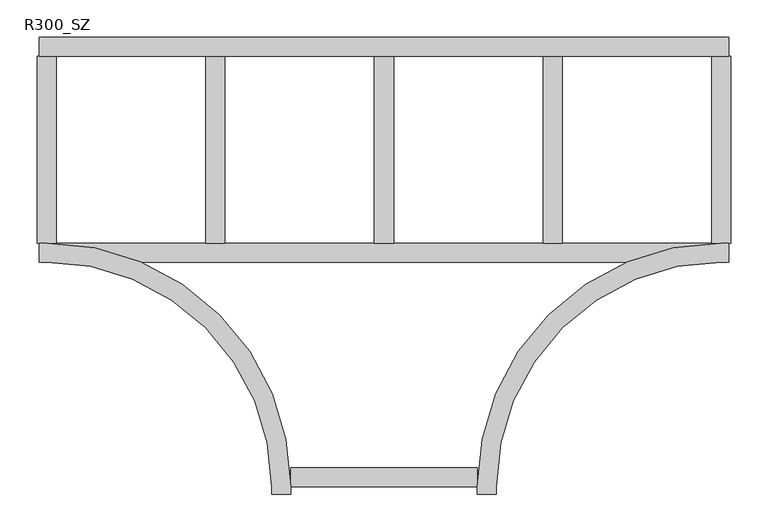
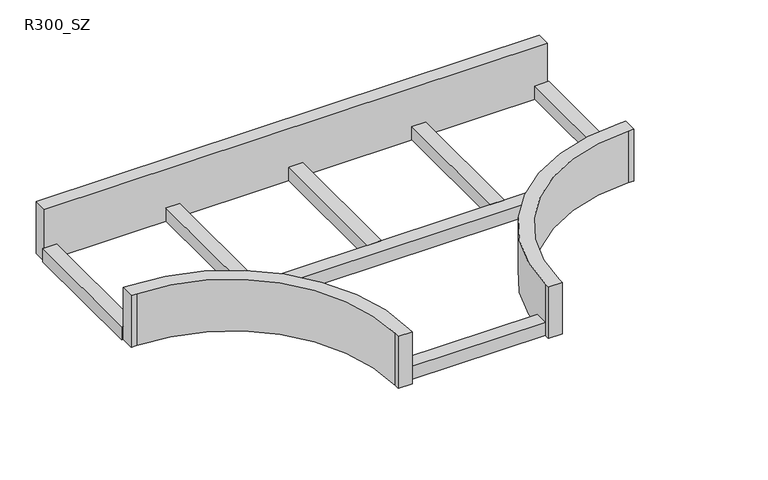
"""IFC4 building model written with IfcOpenShell, lengths in millimetres: cable carrier fitting geometry, IEK_Лестничный_Разветвитель Т-обр : R300_SZ."""

from ifc_helpers import new_model, si_unit, frame, origin, place, context, project, spatial, polyline, circle_curve, outline, extrude, faceted_brep, source, transform, mapped, element, save
from ifc_brep_helpers import plane_surface, cylinder_surface, revolved_surface, advanced_brep


def r300_sz_23be3219(model_context):
    return source(origin(), model_context, "Body", "SolidModel", [
        extrude(outline(polyline([(124.6, -424.6), (124.6, -450.0), (-124.6, -450.0), (-124.6, -424.6), (124.6, -424.6)])), frame((0.0, 0.0, -50.0), z_axis=(0.0, 0.0, 1.0), x_axis=(1.0, 0.0, 0.0)), (0.0, 0.0, 1.0), 25.4),
        extrude(outline(polyline([(462.7, 124.6), (462.7, -124.6), (437.3, -124.6), (437.3, 124.6), (462.7, 124.6)])), frame((0.0, 0.0, -50.0), z_axis=(0.0, 0.0, 1.0), x_axis=(1.0, 0.0, 0.0)), (0.0, 0.0, 1.0), 25.4),
        extrude(outline(polyline([(237.7, 124.6), (237.7, -124.6), (212.3, -124.6), (212.3, 124.6), (237.7, 124.6)])), frame((0.0, 0.0, -50.0), z_axis=(0.0, 0.0, 1.0), x_axis=(1.0, 0.0, 0.0)), (0.0, 0.0, 1.0), 25.4),
        extrude(outline(polyline([(12.7, 124.6), (12.7, -124.6), (-12.7, -124.6), (-12.7, 124.6), (12.7, 124.6)])), frame((0.0, 0.0, -50.0), z_axis=(0.0, 0.0, 1.0), x_axis=(1.0, 0.0, 0.0)), (0.0, 0.0, 1.0), 25.4),
        extrude(outline(polyline([(-212.3, 124.6), (-212.3, -124.6), (-237.7, -124.6), (-237.7, 124.6), (-212.3, 124.6)])), frame((0.0, 0.0, -50.0), z_axis=(0.0, 0.0, 1.0), x_axis=(1.0, 0.0, 0.0)), (0.0, 0.0, 1.0), 25.4),
        extrude(outline(polyline([(-437.3, 124.6), (-437.3, -124.6), (-462.7, -124.6), (-462.7, 124.6), (-437.3, 124.6)])), frame((0.0, 0.0, -50.0), z_axis=(0.0, 0.0, 1.0), x_axis=(1.0, 0.0, 0.0)), (0.0, 0.0, 1.0), 25.4),
        advanced_brep(
        [(-150.0, -450.0, 50.0), (-150.0, -460.0, 50.0), (-124.6, -460.0, 50.0), (-124.6, -450.0, 50.0), (-450.0, -124.6, 50.0), (-460.0, -124.6, 50.0), (-460.0, -150.0, 50.0), (-450.0, -150.0, 50.0), (150.0, -450.0, 50.0), (450.0, -150.0, 50.0), (460.0, -150.0, 50.0), (460.0, -124.6, 50.0), (450.0, -124.6, 50.0), (124.6, -450.0, 50.0), (124.6, -460.0, 50.0), (150.0, -460.0, 50.0), (-150.0, -450.0, -50.0), (-450.0, -150.0, -50.0), (-460.0, -150.0, -50.0), (-460.0, -124.6, -50.0), (460.0, -124.6, -50.0), (460.0, -150.0, -50.0), (450.0, -150.0, -50.0), (150.0, -450.0, -50.0), (150.0, -460.0, -50.0), (124.6, -460.0, -50.0), (124.6, -450.0, -50.0), (323.9636561, -150.0, -50.0), (-323.9636561, -150.0, -50.0), (-124.6, -450.0, -50.0), (-124.6, -460.0, -50.0), (-150.0, -460.0, -50.0), (-323.9636561, -150.0, -24.6), (-450.0, -124.6, -24.6), (450.0, -124.6, -24.6), (-450.0, -150.0, -24.6), (450.0, -150.0, -24.6), (323.9636561, -150.0, -24.6)],
        [
            (0, 1),
            (1, 2),
            (2, 3),
            (3, 4, circle_curve(frame((-450.0, -450.0, 50.0), z_axis=(0.0, 0.0, 1.0), x_axis=(1.0, 0.0, 0.0)), 325.4)),
            (4, 5),
            (5, 6),
            (6, 7),
            (7, 0, circle_curve(frame((-450.0, -450.0, 50.0), z_axis=(0.0, 0.0, -1.0), x_axis=(1.0, 0.0, 0.0)), 300.0)),
            (8, 9, circle_curve(frame((450.0, -450.0, 50.0), z_axis=(0.0, 0.0, -1.0), x_axis=(1.0, 0.0, 0.0)), 300.0)),
            (9, 10),
            (10, 11),
            (11, 12),
            (12, 13, circle_curve(frame((450.0, -450.0, 50.0), z_axis=(0.0, 0.0, 1.0), x_axis=(1.0, 0.0, 0.0)), 325.4)),
            (13, 14),
            (14, 15),
            (15, 8),
            (16, 17, circle_curve(frame((-450.0, -450.0, -50.0), z_axis=(0.0, 0.0, 1.0), x_axis=(1.0, 0.0, 0.0)), 300.0)),
            (17, 18),
            (18, 19),
            (19, 20),
            (20, 21),
            (21, 22),
            (22, 23, circle_curve(frame((450.0, -450.0, -50.0), z_axis=(0.0, 0.0, 1.0), x_axis=(1.0, 0.0, 0.0)), 300.0)),
            (23, 24),
            (24, 25),
            (25, 26),
            (26, 27, circle_curve(frame((450.0, -450.0, -50.0), z_axis=(0.0, 0.0, -1.0), x_axis=(1.0, 0.0, 0.0)), 325.4)),
            (27, 28),
            (28, 29, circle_curve(frame((-450.0, -450.0, -50.0), z_axis=(0.0, 0.0, -1.0), x_axis=(1.0, 0.0, 0.0)), 325.4)),
            (29, 30),
            (30, 31),
            (31, 16),
            (0, 16),
            (31, 1),
            (30, 2),
            (29, 3),
            (28, 32),
            (32, 33, circle_curve(frame((-450.0, -450.0, -24.6), z_axis=(0.0, 0.0, 1.0), x_axis=(1.0, 0.0, 0.0)), 325.4)),
            (33, 4),
            (33, 34),
            (34, 12),
            (11, 20),
            (19, 5),
            (18, 6),
            (17, 35),
            (35, 7),
            (8, 23),
            (22, 36),
            (36, 9),
            (21, 10),
            (34, 37, circle_curve(frame((450.0, -450.0, -24.6), z_axis=(0.0, 0.0, 1.0), x_axis=(1.0, 0.0, 0.0)), 325.4)),
            (37, 27),
            (26, 13),
            (25, 14),
            (24, 15),
            (32, 37),
        ],
        [
            plane_surface(frame((-150.0, -450.0, 50.0), z_axis=(0.0, 0.0, 1.0), x_axis=(0.0, -1.0, 0.0))),
            plane_surface(frame((-150.0, -450.0, -50.0), z_axis=(0.0, 0.0, -1.0), x_axis=(0.0, 1.0, 0.0))),
            plane_surface(frame((-150.0, -450.0, 50.0), z_axis=(-1.0, 0.0, 0.0), x_axis=(0.0, 0.0, -1.0))),
            plane_surface(frame((-150.0, -460.0, 50.0), z_axis=(0.0, -1.0, 0.0), x_axis=(0.0, 0.0, -1.0))),
            plane_surface(frame((-124.6, -460.0, 50.0), z_axis=(1.0, 0.0, 0.0), x_axis=(0.0, 0.0, -1.0))),
            cylinder_surface(frame((-450.0, -450.0, -50.0), z_axis=(0.0, 0.0, 1.0), x_axis=(1.0, 0.0, 0.0)), 325.4),
            plane_surface(frame((-450.0, -124.6, 50.0), z_axis=(0.0, 1.0, 0.0), x_axis=(0.0, 0.0, -1.0))),
            plane_surface(frame((-460.0, -124.6, 50.0), z_axis=(-1.0, 0.0, 0.0), x_axis=(0.0, 0.0, -1.0))),
            plane_surface(frame((-460.0, -150.0, 50.0), z_axis=(0.0, -1.0, 0.0), x_axis=(0.0, 0.0, -1.0))),
            revolved_surface(polyline([(-150.0, -450.0, -50.0), (-150.0, -450.0, 50.0)]), (-450.0, -450.0, -50.0), (0.0, 0.0, -1.0)),
            revolved_surface(polyline([(750.0, -450.0, -50.0), (750.0, -450.0, 50.0)]), (450.0, -450.0, 0.0), (0.0, 0.0, -1.0)),
            plane_surface(frame((450.0, -150.0, 50.0), z_axis=(0.0, -1.0, 0.0), x_axis=(0.0, 0.0, -1.0))),
            plane_surface(frame((460.0, -150.0, 50.0), z_axis=(1.0, 0.0, 0.0), x_axis=(0.0, 0.0, -1.0))),
            cylinder_surface(frame((450.0, -450.0, 0.0), z_axis=(0.0, 0.0, 1.0), x_axis=(1.0, 0.0, 0.0)), 325.4),
            plane_surface(frame((124.6, -450.0, 50.0), z_axis=(-1.0, 0.0, 0.0), x_axis=(0.0, 0.0, -1.0))),
            plane_surface(frame((124.6, -460.0, 50.0), z_axis=(0.0, -1.0, 0.0), x_axis=(0.0, 0.0, -1.0))),
            plane_surface(frame((150.0, -460.0, 50.0), z_axis=(1.0, 0.0, 0.0), x_axis=(0.0, 0.0, -1.0))),
            plane_surface(frame((-450.0, -124.6, -24.6), z_axis=(0.0, 0.0, 1.0), x_axis=(-1.0, 0.0, 0.0))),
            plane_surface(frame((-450.0, -150.0, -24.6), z_axis=(0.0, -1.0, 0.0), x_axis=(0.0, 0.0, -1.0))),
        ],
        [
            (0, [[1, 2, 3, 4, 5, 6, 7, 8]]),
            (0, [[9, 10, 11, 12, 13, 14, 15, 16]]),
            (1, [[17, 18, 19, 20, 21, 22, 23, 24, 25, 26, 27, 28, 29, 30, 31, 32]]),
            (2, [[-1, 33, -32, 34]]),
            (3, [[-2, -34, -31, 35]]),
            (4, [[-3, -35, -30, 36]]),
            (5, [[-4, -36, -29, 37, 38, 39]]),
            (6, [[-5, -39, 40, 41, -12, 42, -20, 43]]),
            (7, [[-6, -43, -19, 44]]),
            (8, [[-7, -44, -18, 45, 46]]),
            (9, [[-8, -46, -45, -17, -33]]),
            (10, [[-9, 47, -23, 48, 49]]),
            (11, [[-10, -49, -48, -22, 50]]),
            (12, [[-11, -50, -21, -42]]),
            (13, [[-13, -41, 51, 52, -27, 53]]),
            (14, [[-14, -53, -26, 54]]),
            (15, [[-15, -54, -25, 55]]),
            (16, [[-16, -55, -24, -47]]),
            (17, [[-40, -38, 56, -51]]),
            (18, [[-28, -52, -56, -37]]),
        ],
    ),
        faceted_brep([(460.0, 150.0, 50.0), (-460.0, 150.0, 50.0), (-460.0, 124.6, 50.0), (460.0, 124.6, 50.0), (460.0, 150.0, -50.0), (460.0, 124.6, -50.0), (-460.0, 124.6, -50.0), (-460.0, 150.0, -50.0)], [[[0, 1, 2, 3]], [[4, 5, 6, 7]], [[1, 0, 4, 7]], [[2, 1, 7, 6]], [[3, 2, 6, 5]], [[0, 3, 5, 4]]]),
    ])


if __name__ == "__main__":
    model = new_model("IFC4")
    model_context = context("Model", 3, world=origin())
    ifc_project = project(units=[si_unit("LENGTHUNIT", "METRE", prefix="MILLI")], contexts=[model_context])
    site = spatial("IfcSite", under=ifc_project)
    building = spatial("IfcBuilding", under=site)
    placement = place(None, origin())
    r300_sz_shape = r300_sz_23be3219(model_context)
    element("IfcCableCarrierFitting", 1, ObjectType="IEK_Лестничный_Разветвитель Т-обр : R300_SZ", at=placement, inside=building, context=model_context, shape_type="MappedRepresentation", body=[
        mapped(r300_sz_shape, transform((0.0, 0.0, 0.0), x_axis=(1.0, 0.0, 0.0), y_axis=(0.0, 1.0, 0.0), z_axis=(0.0, 0.0, 1.0))),
    ])
    save(model, "model.ifc")
